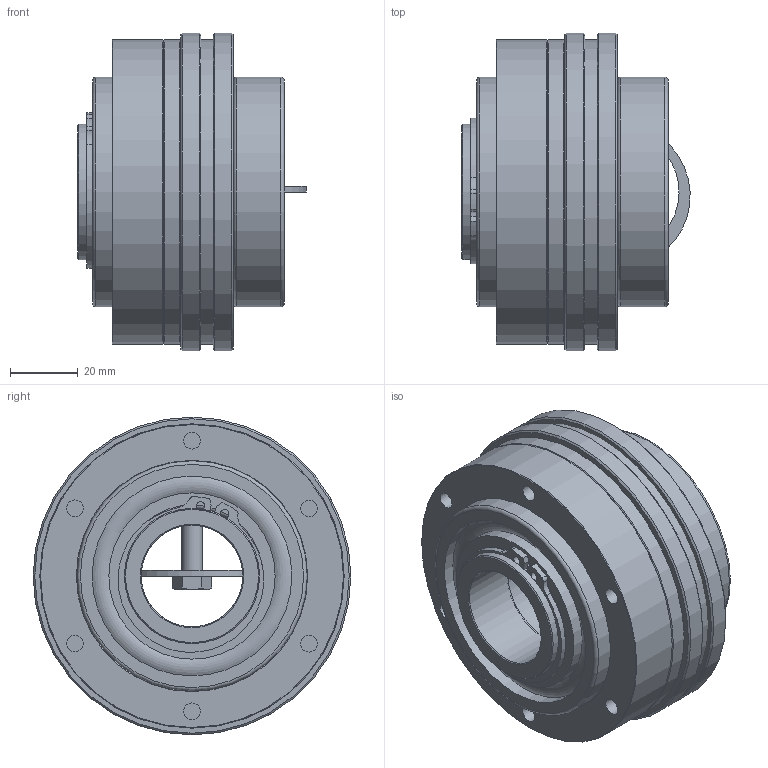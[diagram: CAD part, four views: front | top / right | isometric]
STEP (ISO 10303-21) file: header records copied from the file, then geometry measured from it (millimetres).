
FILE_DESCRIPTION( ( 'Unknown' ), '1' );
FILE_NAME( 'C:/Dokumente und Einstellungen/Sven/Desktop/hp kbk/L-I/KBK L-I-80.stp', 'Unknown', ( 'Unknown' ), ( 'Unknown' ), 'XStep 1.0', 'Unknown', ' ' );
FILE_SCHEMA( ( 'automotive_design' ) );
Length unit declared in the file: millimetre
Products named in the file (12): Assem1; Assem2; ball_bearing_-_6008_0_01; ball_bearing_-_6008_0_02; ball_bearing_-_6008_0_03; KBK L-I-80 Grundkörper_0; Konusbuchse 80_0; Stellring 80; Druckring 80; Flansch 80; a_40; din_en_24017_m6x25
Bounding box: 67.52 x 94 x 94 mm (x, y, z)
Volume: 428958.4 mm3; surface area: 204817.3 mm2
Topology: 28 solids, 28 shells, 505 faces, 1076 edges, 688 vertices
Faces by surface type: plane 203, cylinder 148, cone 122, torus 32
Full cylindrical faces by diameter (mm): 2.5 x4, 3.242 x6, 4.917 x30, 5 x8, 5.2 x6, 6 x7, 6.6 x12, 8.8 x7, 30 x4, 37.5 x2, 40 x7, 41 x2, 49.2 x6, 59.1 x6, 59.5 x2, 61 x2, 62 x4, 68 x5, 70 x2, 85 x2, 87 x2, 90 x4, 94 x2
Entity records: 5425 total; most frequent: CARTESIAN_POINT 1142, DIRECTION 854, ORIENTED_EDGE 558, AXIS2_PLACEMENT_3D 395, EDGE_LOOP 352, EDGE_CURVE 279, FACE_OUTER_BOUND 255, VERTEX_POINT 231
